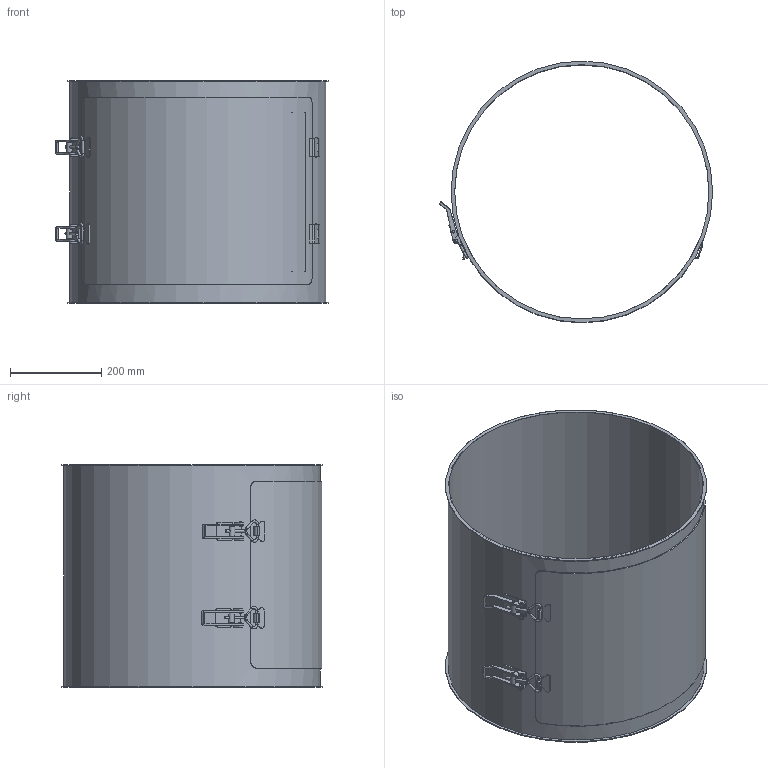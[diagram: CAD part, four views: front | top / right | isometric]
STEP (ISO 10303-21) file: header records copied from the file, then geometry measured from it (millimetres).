
FILE_DESCRIPTION((''),'2;1');
FILE_NAME('U:\Wolfgang\Marcel-3D\fertig\Kapitel 4\5621142.stp','2011-04-21T08:26:54',('TK1'),(''),'Autodesk Inventor 2010','Autodesk Inventor 2010','');
FILE_SCHEMA(('AUTOMOTIVE_DESIGN { 1 0 10303 214 1 1 1 1 }'));
Length unit declared in the file: millimetre
Products named in the file (14): 5621142; 5621142-Rohr; 5621142-verschluss; Verschluss ab 35-1; Verschluss ab 35-2; Verschluss ab 35-3; Verschluss ab 35-4; Verschluss ab 35-5; Gelenk56; Deckel56; 5621142 Halterung2; 5621142-Deckel; verschluss 56; 5621142 Halterung3
Assembly tree (19 placements, depth 3):
  5621142
    5621142-Rohr
    5621142-verschluss  x2
      Verschluss ab 35-1
      Verschluss ab 35-2
      Verschluss ab 35-3
      Verschluss ab 35-4
      Verschluss ab 35-5
    Gelenk56  x2
    Deckel56
      5621142 Halterung2  x2
      5621142-Deckel
      verschluss 56  x2
    5621142 Halterung3  x2
Bounding box: 599.58 x 574 x 488 mm (x, y, z)
Volume: 1945694.4 mm3; surface area: 1948161 mm2
Topology: 22 solids, 22 shells, 334 faces, 815 edges, 535 vertices
Faces by surface type: plane 157, cylinder 138, bspline 19, sphere 12, torus 8
Full cylindrical faces by diameter (mm): 4.917 x2, 5 x32, 6 x8, 12 x2, 558 x1, 562 x1, 574 x2
Entity records: 5903 total; most frequent: CARTESIAN_POINT 1326, DIRECTION 932, ORIENTED_EDGE 796, EDGE_CURVE 398, AXIS2_PLACEMENT_3D 363, VERTEX_POINT 279, EDGE_LOOP 241, VECTOR 206
